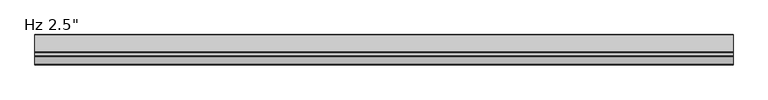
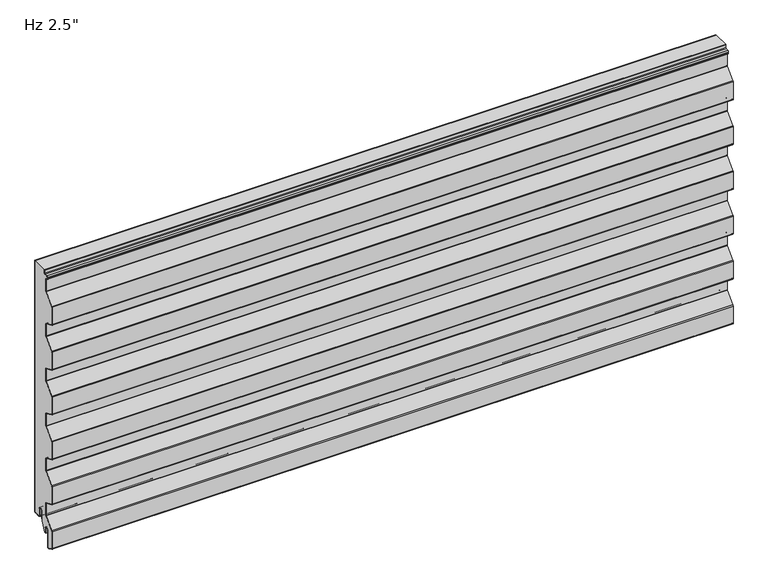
"""IFC4 building model written with IfcOpenShell, lengths in millimetres: plate geometry."""

from ifc_helpers import new_model, si_unit, point, frame, frame_2d, origin, place, context, project, spatial, polyline, circle_curve, trimmed, segment, composite_curve, outline, extrude, source, transform, mapped, element, save


def plate_0d2cc28e(model_context):
    return source(origin(), model_context, "Body", "SweptSolid", [
        extrude(outline(composite_curve([segment(polyline([(-26.4011912, 19.05), (-26.4011912, -3.1976612), (-36.533822, -23.01875), (-38.6886912, -23.01875), (-38.6886912, -11.90625)]), True, "CONTINUOUS"), segment(trimmed(circle_curve(frame_2d((-43.6574412, -11.90625)), 4.96875), [point((-38.6886912, -11.90625))], [point((-48.6261912, -11.90625))], True, "CARTESIAN"), True, "CONTINUOUS"), segment(polyline([(-48.6261912, -11.90625), (-48.6261912, -48.8194049)]), True, "CONTINUOUS"), segment(trimmed(circle_curve(frame_2d((-50.0074412, -48.8194049)), 1.38125), [point((-48.6261912, -48.8194049))], [point((-50.5666208, -50.0824052))], False, "CARTESIAN"), True, "CONTINUOUS"), segment(polyline([(-50.5666208, -50.0824052), (-61.6779296, -45.1629946)]), True, "CONTINUOUS"), segment(trimmed(circle_curve(frame_2d((-61.11875, -43.8999943)), 1.38125), [point((-61.6779296, -45.1629946))], [point((-62.5, -43.8999943))], False, "CARTESIAN"), True, "CONTINUOUS"), segment(polyline([(-62.5, -43.8999943), (-62.5, -5.0536946)]), True, "CONTINUOUS"), segment(trimmed(circle_curve(frame_2d((-60.4012, -5.0536946)), 2.0988), [point((-62.5, -5.0536946))], [point((-61.9092077, -3.5939431))], False, "CARTESIAN"), True, "CONTINUOUS"), segment(polyline([(-61.9092077, -3.5939431), (-41.7145567, 17.2682996)]), True, "CONTINUOUS"), segment(trimmed(circle_curve(frame_2d((-43.5737, 19.0679503)), 2.5875), [point((-41.7145567, 17.2682996))], [point((-40.9862, 19.0679503))], True, "CARTESIAN"), True, "CONTINUOUS"), segment(polyline([(-40.9862, 19.0679503), (-40.9862, 45.5917981)]), True, "CONTINUOUS"), segment(trimmed(circle_curve(frame_2d((-43.5737, 45.5917981)), 2.5875), [point((-40.9862, 45.5917981))], [point((-42.5261871, 47.9577806))], True, "CARTESIAN"), True, "CONTINUOUS"), segment(polyline([(-42.5261871, 47.9577806), (-61.6779296, 56.4370054)]), True, "CONTINUOUS"), segment(trimmed(circle_curve(frame_2d((-61.11875, 57.7000057)), 1.38125), [point((-61.6779296, 56.4370054))], [point((-62.5, 57.7000057))], False, "CARTESIAN"), True, "CONTINUOUS"), segment(polyline([(-62.5, 57.7000057), (-62.5, 96.8367131)]), True, "CONTINUOUS"), segment(trimmed(circle_curve(frame_2d((-61.11875, 96.8367131)), 1.38125), [point((-62.5, 96.8367131))], [point((-62.1111912, 97.7973962))], False, "CARTESIAN"), True, "CONTINUOUS"), segment(polyline([(-62.1111912, 97.7973962), (-41.7145567, 118.8682996)]), True, "CONTINUOUS"), segment(trimmed(circle_curve(frame_2d((-43.5737, 120.6679503)), 2.5875), [point((-41.7145567, 118.8682996))], [point((-40.9862, 120.6679503))], True, "CARTESIAN"), True, "CONTINUOUS"), segment(polyline([(-40.9862, 120.6679503), (-40.9862, 147.1917981)]), True, "CONTINUOUS"), segment(trimmed(circle_curve(frame_2d((-43.5737, 147.1917981)), 2.5875), [point((-40.9862, 147.1917981))], [point((-42.5261871, 149.5577806))], True, "CARTESIAN"), True, "CONTINUOUS"), segment(polyline([(-42.5261871, 149.5577806), (-61.6779296, 158.0370054)]), True, "CONTINUOUS"), segment(trimmed(circle_curve(frame_2d((-61.11875, 159.3000057)), 1.38125), [point((-61.6779296, 158.0370054))], [point((-62.5, 159.3000057))], False, "CARTESIAN"), True, "CONTINUOUS"), segment(polyline([(-62.5, 159.3000057), (-62.5, 198.4367131)]), True, "CONTINUOUS"), segment(trimmed(circle_curve(frame_2d((-61.11875, 198.4367131)), 1.38125), [point((-62.5, 198.4367131))], [point((-62.1111912, 199.3973962))], False, "CARTESIAN"), True, "CONTINUOUS"), segment(polyline([(-62.1111912, 199.3973962), (-41.7145567, 220.4682996)]), True, "CONTINUOUS"), segment(trimmed(circle_curve(frame_2d((-43.5737, 222.2679503)), 2.5875), [point((-41.7145567, 220.4682996))], [point((-40.9862, 222.2679503))], True, "CARTESIAN"), True, "CONTINUOUS"), segment(polyline([(-40.9862, 222.2679503), (-40.9862, 248.7917981)]), True, "CONTINUOUS"), segment(trimmed(circle_curve(frame_2d((-43.5737, 248.7917981)), 2.5875), [point((-40.9862, 248.7917981))], [point((-42.5261871, 251.1577806))], True, "CARTESIAN"), True, "CONTINUOUS"), segment(polyline([(-42.5261871, 251.1577806), (-61.6779296, 259.6370054)]), True, "CONTINUOUS"), segment(trimmed(circle_curve(frame_2d((-61.11875, 260.9000057)), 1.38125), [point((-61.6779296, 259.6370054))], [point((-62.5, 260.9000057))], False, "CARTESIAN"), True, "CONTINUOUS"), segment(polyline([(-62.5, 260.9000057), (-62.5, 300.0367131)]), True, "CONTINUOUS"), segment(trimmed(circle_curve(frame_2d((-61.11875, 300.0367131)), 1.38125), [point((-62.5, 300.0367131))], [point((-62.1111912, 300.9973962))], False, "CARTESIAN"), True, "CONTINUOUS"), segment(polyline([(-62.1111912, 300.9973962), (-41.7145567, 322.0682996)]), True, "CONTINUOUS"), segment(trimmed(circle_curve(frame_2d((-43.5737, 323.8679503)), 2.5875), [point((-41.7145567, 322.0682996))], [point((-40.9862, 323.8679503))], True, "CARTESIAN"), True, "CONTINUOUS"), segment(polyline([(-40.9862, 323.8679503), (-40.9862, 350.3917981)]), True, "CONTINUOUS"), segment(trimmed(circle_curve(frame_2d((-43.5737, 350.3917981)), 2.5875), [point((-40.9862, 350.3917981))], [point((-42.5261871, 352.7577806))], True, "CARTESIAN"), True, "CONTINUOUS"), segment(polyline([(-42.5261871, 352.7577806), (-61.6779296, 361.2370054)]), True, "CONTINUOUS"), segment(trimmed(circle_curve(frame_2d((-61.11875, 362.5000057)), 1.38125), [point((-61.6779296, 361.2370054))], [point((-62.5, 362.5000057))], False, "CARTESIAN"), True, "CONTINUOUS"), segment(polyline([(-62.5, 362.5000057), (-62.5, 401.6367131)]), True, "CONTINUOUS"), segment(trimmed(circle_curve(frame_2d((-61.11875, 401.6367131)), 1.38125), [point((-62.5, 401.6367131))], [point((-62.1111912, 402.5973962))], False, "CARTESIAN"), True, "CONTINUOUS"), segment(polyline([(-62.1111912, 402.5973962), (-41.7145567, 423.6682996)]), True, "CONTINUOUS"), segment(trimmed(circle_curve(frame_2d((-43.5737, 425.4679503)), 2.5875), [point((-41.7145567, 423.6682996))], [point((-40.9862, 425.4679503))], True, "CARTESIAN"), True, "CONTINUOUS"), segment(polyline([(-40.9862, 425.4679503), (-40.9862, 451.9917981)]), True, "CONTINUOUS"), segment(trimmed(circle_curve(frame_2d((-43.5737, 451.9917981)), 2.5875), [point((-40.9862, 451.9917981))], [point((-42.5261871, 454.3577806))], True, "CARTESIAN"), True, "CONTINUOUS"), segment(polyline([(-42.5261871, 454.3577806), (-61.6779296, 462.8370054)]), True, "CONTINUOUS"), segment(trimmed(circle_curve(frame_2d((-61.11875, 464.1000057)), 1.38125), [point((-61.6779296, 462.8370054))], [point((-62.5, 464.1000057))], False, "CARTESIAN"), True, "CONTINUOUS"), segment(polyline([(-62.5, 464.1000057), (-62.5, 503.2367131)]), True, "CONTINUOUS"), segment(trimmed(circle_curve(frame_2d((-61.11875, 503.2367131)), 1.38125), [point((-62.5, 503.2367131))], [point((-62.1111912, 504.1973962))], False, "CARTESIAN"), True, "CONTINUOUS"), segment(polyline([(-62.1111912, 504.1973962), (-41.7145567, 525.2682996)]), True, "CONTINUOUS"), segment(trimmed(circle_curve(frame_2d((-43.5737, 527.0679503)), 2.5875), [point((-41.7145567, 525.2682996))], [point((-40.9862, 527.0679503))], True, "CARTESIAN"), True, "CONTINUOUS"), segment(polyline([(-40.9862, 527.0679503), (-40.9862, 553.5917981)]), True, "CONTINUOUS"), segment(trimmed(circle_curve(frame_2d((-43.5737, 553.5917981)), 2.5875), [point((-40.9862, 553.5917981))], [point((-42.5261871, 555.9577806))], True, "CARTESIAN"), True, "CONTINUOUS"), segment(polyline([(-42.5261871, 555.9577806), (-44.2166208, 556.7062016)]), True, "CONTINUOUS"), segment(trimmed(circle_curve(frame_2d((-43.6574412, 557.9692019)), 1.38125), [point((-44.2166208, 556.7062016))], [point((-45.0386912, 557.9692019))], False, "CARTESIAN"), True, "CONTINUOUS"), segment(polyline([(-45.0386912, 557.9692019), (-45.0386912, 560.2967085)]), True, "CONTINUOUS"), segment(trimmed(circle_curve(frame_2d((-43.6574412, 560.2967085)), 1.38125), [point((-45.0386912, 560.2967085))], [point((-43.7297302, 561.6760655))], False, "CARTESIAN"), True, "CONTINUOUS"), segment(polyline([(-43.7297302, 561.6760655), (-37.9657719, 561.9781418)]), True, "CONTINUOUS"), segment(trimmed(circle_curve(frame_2d((-38.1011912, 564.5620957)), 2.5875), [point((-37.9657719, 561.9781418))], [point((-35.5136912, 564.5620957))], True, "CARTESIAN"), True, "CONTINUOUS"), segment(polyline([(-35.5136912, 564.5620957), (-35.5136912, 571.2), (-1.0011912, 571.2), (-1.0011912, 3.175)]), True, "CONTINUOUS"), segment(trimmed(circle_curve(frame_2d((-2.3824412, 3.175)), 1.38125), [point((-1.0011912, 3.175))], [point((-2.3824412, 1.79375))], False, "CARTESIAN"), True, "CONTINUOUS"), segment(polyline([(-2.3824412, 1.79375), (-15.0824412, 1.79375)]), True, "CONTINUOUS"), segment(trimmed(circle_curve(frame_2d((-15.0824412, 3.175)), 1.38125), [point((-15.0824412, 1.79375))], [point((-16.4636912, 3.175))], False, "CARTESIAN"), True, "CONTINUOUS"), segment(polyline([(-16.4636912, 3.175), (-16.4636912, 19.05)]), True, "CONTINUOUS"), segment(trimmed(circle_curve(frame_2d((-21.4324412, 19.05)), 4.96875), [point((-16.4636912, 19.05))], [point((-26.4011912, 19.05))], True, "CARTESIAN"), True, "CONTINUOUS")], self_intersect=False)), frame((-730.0, 0.0, 0.0), z_axis=(1.0, 0.0, 0.0), x_axis=(0.0, 1.0, 0.0)), (0.0, 0.0, 1.0), 1460.0),
        extrude(outline(composite_curve([segment(polyline([(-25.4, 0.79375), (-26.4, 0.79375), (-26.4, 19.05)]), True, "CONTINUOUS"), segment(trimmed(circle_curve(frame_2d((-21.43125, 19.05)), 4.96875), [point((-26.4, 19.05))], [point((-16.4625, 19.05))], False, "CARTESIAN"), True, "CONTINUOUS"), segment(polyline([(-16.4625, 19.05), (-16.4625, 3.175)]), True, "CONTINUOUS"), segment(trimmed(circle_curve(frame_2d((-15.08125, 3.175)), 1.38125), [point((-16.4625, 3.175))], [point((-15.08125, 1.79375))], True, "CARTESIAN"), True, "CONTINUOUS"), segment(polyline([(-15.08125, 1.79375), (-2.38125, 1.79375)]), True, "CONTINUOUS"), segment(trimmed(circle_curve(frame_2d((-2.38125, 3.175)), 1.38125), [point((-2.38125, 1.79375))], [point((-1.0, 3.175))], True, "CARTESIAN"), True, "CONTINUOUS"), segment(polyline([(-1.0, 3.175), (-1.0, 571.2), (0.0, 571.2), (0.0, 3.175)]), True, "CONTINUOUS"), segment(trimmed(circle_curve(frame_2d((-2.38125, 3.175)), 2.38125), [point((0.0, 3.175))], [point((-2.38125, 0.79375))], False, "CARTESIAN"), True, "CONTINUOUS"), segment(polyline([(-2.38125, 0.79375), (-15.08125, 0.79375)]), True, "CONTINUOUS"), segment(trimmed(circle_curve(frame_2d((-15.08125, 3.175)), 2.38125), [point((-15.08125, 0.79375))], [point((-17.4625, 3.175))], False, "CARTESIAN"), True, "CONTINUOUS"), segment(polyline([(-17.4625, 3.175), (-17.4625, 19.05)]), True, "CONTINUOUS"), segment(trimmed(circle_curve(frame_2d((-21.43125, 19.05)), 3.96875), [point((-17.4625, 19.05))], [point((-25.4, 19.05))], True, "CARTESIAN"), True, "CONTINUOUS"), segment(polyline([(-25.4, 19.05), (-25.4, 0.79375)]), True, "CONTINUOUS")], self_intersect=False)), frame((-730.0, 0.0, 0.0), z_axis=(1.0, 0.0, 0.0), x_axis=(0.0, 1.0, 0.0)), (0.0, 0.0, 1.0), 1460.0),
        extrude(outline(composite_curve([segment(polyline([(-47.6261912, -11.90625), (-47.6261912, -48.8194049)]), True, "CONTINUOUS"), segment(trimmed(circle_curve(frame_2d((-50.0074412, -48.8194049)), 2.38125), [point((-47.6261912, -48.8194049))], [point((-50.9714567, -50.9967946))], False, "CARTESIAN"), True, "CONTINUOUS"), segment(polyline([(-50.9714567, -50.9967946), (-62.0827655, -46.0773839)]), True, "CONTINUOUS"), segment(trimmed(circle_curve(frame_2d((-61.11875, -43.8999943)), 2.38125), [point((-62.0827655, -46.0773839))], [point((-63.5, -43.8999943))], False, "CARTESIAN"), True, "CONTINUOUS"), segment(polyline([(-63.5, -43.8999943), (-63.5, -5.0536946)]), True, "CONTINUOUS"), segment(trimmed(circle_curve(frame_2d((-60.4012, -5.0536946)), 3.0988), [point((-63.5, -5.0536946))], [point((-62.6277172, -2.8984259))], False, "CARTESIAN"), True, "CONTINUOUS"), segment(polyline([(-62.6277172, -2.8984259), (-42.4330662, 17.9638168)]), True, "CONTINUOUS"), segment(trimmed(circle_curve(frame_2d((-43.5737, 19.0679503)), 1.5875), [point((-42.4330662, 17.9638168))], [point((-41.9862, 19.0679503))], True, "CARTESIAN"), True, "CONTINUOUS"), segment(polyline([(-41.9862, 19.0679503), (-41.9862, 45.5917981)]), True, "CONTINUOUS"), segment(trimmed(circle_curve(frame_2d((-43.5737, 45.5917981)), 1.5875), [point((-41.9862, 45.5917981))], [point((-42.931023, 47.0433912))], True, "CARTESIAN"), True, "CONTINUOUS"), segment(polyline([(-42.931023, 47.0433912), (-62.0827655, 55.5226161)]), True, "CONTINUOUS"), segment(trimmed(circle_curve(frame_2d((-61.11875, 57.7000057)), 2.38125), [point((-62.0827655, 55.5226161))], [point((-63.5, 57.7000057))], False, "CARTESIAN"), True, "CONTINUOUS"), segment(polyline([(-63.5, 57.7000057), (-63.5, 96.8367131)]), True, "CONTINUOUS"), segment(trimmed(circle_curve(frame_2d((-61.11875, 96.8367131)), 2.38125), [point((-63.5, 96.8367131))], [point((-62.8297007, 98.4929134))], False, "CARTESIAN"), True, "CONTINUOUS"), segment(polyline([(-62.8297007, 98.4929134), (-42.4330662, 119.5638168)]), True, "CONTINUOUS"), segment(trimmed(circle_curve(frame_2d((-43.5737, 120.6679503)), 1.5875), [point((-42.4330662, 119.5638168))], [point((-41.9862, 120.6679503))], True, "CARTESIAN"), True, "CONTINUOUS"), segment(polyline([(-41.9862, 120.6679503), (-41.9862, 147.1917981)]), True, "CONTINUOUS"), segment(trimmed(circle_curve(frame_2d((-43.5737, 147.1917981)), 1.5875), [point((-41.9862, 147.1917981))], [point((-42.931023, 148.6433912))], True, "CARTESIAN"), True, "CONTINUOUS"), segment(polyline([(-42.931023, 148.6433912), (-62.0827655, 157.1226161)]), True, "CONTINUOUS"), segment(trimmed(circle_curve(frame_2d((-61.11875, 159.3000057)), 2.38125), [point((-62.0827655, 157.1226161))], [point((-63.5, 159.3000057))], False, "CARTESIAN"), True, "CONTINUOUS"), segment(polyline([(-63.5, 159.3000057), (-63.5, 198.4367131)]), True, "CONTINUOUS"), segment(trimmed(circle_curve(frame_2d((-61.11875, 198.4367131)), 2.38125), [point((-63.5, 198.4367131))], [point((-62.8297007, 200.0929134))], False, "CARTESIAN"), True, "CONTINUOUS"), segment(polyline([(-62.8297007, 200.0929134), (-42.4330662, 221.1638168)]), True, "CONTINUOUS"), segment(trimmed(circle_curve(frame_2d((-43.5737, 222.2679503)), 1.5875), [point((-42.4330662, 221.1638168))], [point((-41.9862, 222.2679503))], True, "CARTESIAN"), True, "CONTINUOUS"), segment(polyline([(-41.9862, 222.2679503), (-41.9862, 248.7917981)]), True, "CONTINUOUS"), segment(trimmed(circle_curve(frame_2d((-43.5737, 248.7917981)), 1.5875), [point((-41.9862, 248.7917981))], [point((-42.931023, 250.2433912))], True, "CARTESIAN"), True, "CONTINUOUS"), segment(polyline([(-42.931023, 250.2433912), (-62.0827655, 258.7226161)]), True, "CONTINUOUS"), segment(trimmed(circle_curve(frame_2d((-61.11875, 260.9000057)), 2.38125), [point((-62.0827655, 258.7226161))], [point((-63.5, 260.9000057))], False, "CARTESIAN"), True, "CONTINUOUS"), segment(polyline([(-63.5, 260.9000057), (-63.5, 300.0367131)]), True, "CONTINUOUS"), segment(trimmed(circle_curve(frame_2d((-61.11875, 300.0367131)), 2.38125), [point((-63.5, 300.0367131))], [point((-62.8297007, 301.6929134))], False, "CARTESIAN"), True, "CONTINUOUS"), segment(polyline([(-62.8297007, 301.6929134), (-42.4330662, 322.7638168)]), True, "CONTINUOUS"), segment(trimmed(circle_curve(frame_2d((-43.5737, 323.8679503)), 1.5875), [point((-42.4330662, 322.7638168))], [point((-41.9862, 323.8679503))], True, "CARTESIAN"), True, "CONTINUOUS"), segment(polyline([(-41.9862, 323.8679503), (-41.9862, 350.3917981)]), True, "CONTINUOUS"), segment(trimmed(circle_curve(frame_2d((-43.5737, 350.3917981)), 1.5875), [point((-41.9862, 350.3917981))], [point((-42.931023, 351.8433912))], True, "CARTESIAN"), True, "CONTINUOUS"), segment(polyline([(-42.931023, 351.8433912), (-62.0827655, 360.3226161)]), True, "CONTINUOUS"), segment(trimmed(circle_curve(frame_2d((-61.11875, 362.5000057)), 2.38125), [point((-62.0827655, 360.3226161))], [point((-63.5, 362.5000057))], False, "CARTESIAN"), True, "CONTINUOUS"), segment(polyline([(-63.5, 362.5000057), (-63.5, 401.6367131)]), True, "CONTINUOUS"), segment(trimmed(circle_curve(frame_2d((-61.11875, 401.6367131)), 2.38125), [point((-63.5, 401.6367131))], [point((-62.8297007, 403.2929134))], False, "CARTESIAN"), True, "CONTINUOUS"), segment(polyline([(-62.8297007, 403.2929134), (-42.4330662, 424.3638168)]), True, "CONTINUOUS"), segment(trimmed(circle_curve(frame_2d((-43.5737, 425.4679503)), 1.5875), [point((-42.4330662, 424.3638168))], [point((-41.9862, 425.4679503))], True, "CARTESIAN"), True, "CONTINUOUS"), segment(polyline([(-41.9862, 425.4679503), (-41.9862, 451.9917981)]), True, "CONTINUOUS"), segment(trimmed(circle_curve(frame_2d((-43.5737, 451.9917981)), 1.5875), [point((-41.9862, 451.9917981))], [point((-42.931023, 453.4433912))], True, "CARTESIAN"), True, "CONTINUOUS"), segment(polyline([(-42.931023, 453.4433912), (-62.0827655, 461.9226161)]), True, "CONTINUOUS"), segment(trimmed(circle_curve(frame_2d((-61.11875, 464.1000057)), 2.38125), [point((-62.0827655, 461.9226161))], [point((-63.5, 464.1000057))], False, "CARTESIAN"), True, "CONTINUOUS"), segment(polyline([(-63.5, 464.1000057), (-63.5, 503.2367131)]), True, "CONTINUOUS"), segment(trimmed(circle_curve(frame_2d((-61.11875, 503.2367131)), 2.38125), [point((-63.5, 503.2367131))], [point((-62.8297007, 504.8929134))], False, "CARTESIAN"), True, "CONTINUOUS"), segment(polyline([(-62.8297007, 504.8929134), (-42.4330662, 525.9638168)]), True, "CONTINUOUS"), segment(trimmed(circle_curve(frame_2d((-43.5737, 527.0679503)), 1.5875), [point((-42.4330662, 525.9638168))], [point((-41.9862, 527.0679503))], True, "CARTESIAN"), True, "CONTINUOUS"), segment(polyline([(-41.9862, 527.0679503), (-41.9862, 553.5917981)]), True, "CONTINUOUS"), segment(trimmed(circle_curve(frame_2d((-43.5737, 553.5917981)), 1.5875), [point((-41.9862, 553.5917981))], [point((-42.931023, 555.0433912))], True, "CARTESIAN"), True, "CONTINUOUS"), segment(polyline([(-42.931023, 555.0433912), (-44.6214567, 555.7918123)]), True, "CONTINUOUS"), segment(trimmed(circle_curve(frame_2d((-43.6574412, 557.9692019)), 2.38125), [point((-44.6214567, 555.7918123))], [point((-46.0386912, 557.9692019))], False, "CARTESIAN"), True, "CONTINUOUS"), segment(polyline([(-46.0386912, 557.9692019), (-46.0386912, 560.2967085)]), True, "CONTINUOUS"), segment(trimmed(circle_curve(frame_2d((-43.6574412, 560.2967085)), 2.38125), [point((-46.0386912, 560.2967085))], [point((-43.7820662, 562.6746951))], False, "CARTESIAN"), True, "CONTINUOUS"), segment(polyline([(-43.7820662, 562.6746951), (-38.0181078, 562.9767713)]), True, "CONTINUOUS"), segment(trimmed(circle_curve(frame_2d((-38.1011912, 564.5620957)), 1.5875), [point((-38.0181078, 562.9767713))], [point((-36.5136912, 564.5620957))], True, "CARTESIAN"), True, "CONTINUOUS"), segment(polyline([(-36.5136912, 564.5620957), (-36.5136912, 571.2), (-35.5136912, 571.2), (-35.5136912, 564.5620957)]), True, "CONTINUOUS"), segment(trimmed(circle_curve(frame_2d((-38.1011912, 564.5620957)), 2.5875), [point((-35.5136912, 564.5620957))], [point((-37.9657719, 561.9781418))], False, "CARTESIAN"), True, "CONTINUOUS"), segment(polyline([(-37.9657719, 561.9781418), (-43.7297302, 561.6760655)]), True, "CONTINUOUS"), segment(trimmed(circle_curve(frame_2d((-43.6574412, 560.2967085)), 1.38125), [point((-43.7297302, 561.6760655))], [point((-45.0386912, 560.2967085))], True, "CARTESIAN"), True, "CONTINUOUS"), segment(polyline([(-45.0386912, 560.2967085), (-45.0386912, 557.9692019)]), True, "CONTINUOUS"), segment(trimmed(circle_curve(frame_2d((-43.6574412, 557.9692019)), 1.38125), [point((-45.0386912, 557.9692019))], [point((-44.2166208, 556.7062016))], True, "CARTESIAN"), True, "CONTINUOUS"), segment(polyline([(-44.2166208, 556.7062016), (-42.5261871, 555.9577806)]), True, "CONTINUOUS"), segment(trimmed(circle_curve(frame_2d((-43.5737, 553.5917981)), 2.5875), [point((-42.5261871, 555.9577806))], [point((-40.9862, 553.5917981))], False, "CARTESIAN"), True, "CONTINUOUS"), segment(polyline([(-40.9862, 553.5917981), (-40.9862, 527.0679503)]), True, "CONTINUOUS"), segment(trimmed(circle_curve(frame_2d((-43.5737, 527.0679503)), 2.5875), [point((-40.9862, 527.0679503))], [point((-41.7145567, 525.2682996))], False, "CARTESIAN"), True, "CONTINUOUS"), segment(polyline([(-41.7145567, 525.2682996), (-62.1111912, 504.1973962)]), True, "CONTINUOUS"), segment(trimmed(circle_curve(frame_2d((-61.11875, 503.2367131)), 1.38125), [point((-62.1111912, 504.1973962))], [point((-62.5, 503.2367131))], True, "CARTESIAN"), True, "CONTINUOUS"), segment(polyline([(-62.5, 503.2367131), (-62.5, 464.1000057)]), True, "CONTINUOUS"), segment(trimmed(circle_curve(frame_2d((-61.11875, 464.1000057)), 1.38125), [point((-62.5, 464.1000057))], [point((-61.6779296, 462.8370054))], True, "CARTESIAN"), True, "CONTINUOUS"), segment(polyline([(-61.6779296, 462.8370054), (-42.5261871, 454.3577806)]), True, "CONTINUOUS"), segment(trimmed(circle_curve(frame_2d((-43.5737, 451.9917981)), 2.5875), [point((-42.5261871, 454.3577806))], [point((-40.9862, 451.9917981))], False, "CARTESIAN"), True, "CONTINUOUS"), segment(polyline([(-40.9862, 451.9917981), (-40.9862, 425.4679503)]), True, "CONTINUOUS"), segment(trimmed(circle_curve(frame_2d((-43.5737, 425.4679503)), 2.5875), [point((-40.9862, 425.4679503))], [point((-41.7145567, 423.6682996))], False, "CARTESIAN"), True, "CONTINUOUS"), segment(polyline([(-41.7145567, 423.6682996), (-62.1111912, 402.5973962)]), True, "CONTINUOUS"), segment(trimmed(circle_curve(frame_2d((-61.11875, 401.6367131)), 1.38125), [point((-62.1111912, 402.5973962))], [point((-62.5, 401.6367131))], True, "CARTESIAN"), True, "CONTINUOUS"), segment(polyline([(-62.5, 401.6367131), (-62.5, 362.5000057)]), True, "CONTINUOUS"), segment(trimmed(circle_curve(frame_2d((-61.11875, 362.5000057)), 1.38125), [point((-62.5, 362.5000057))], [point((-61.6779296, 361.2370054))], True, "CARTESIAN"), True, "CONTINUOUS"), segment(polyline([(-61.6779296, 361.2370054), (-42.5261871, 352.7577806)]), True, "CONTINUOUS"), segment(trimmed(circle_curve(frame_2d((-43.5737, 350.3917981)), 2.5875), [point((-42.5261871, 352.7577806))], [point((-40.9862, 350.3917981))], False, "CARTESIAN"), True, "CONTINUOUS"), segment(polyline([(-40.9862, 350.3917981), (-40.9862, 323.8679503)]), True, "CONTINUOUS"), segment(trimmed(circle_curve(frame_2d((-43.5737, 323.8679503)), 2.5875), [point((-40.9862, 323.8679503))], [point((-41.7145567, 322.0682996))], False, "CARTESIAN"), True, "CONTINUOUS"), segment(polyline([(-41.7145567, 322.0682996), (-62.1111912, 300.9973962)]), True, "CONTINUOUS"), segment(trimmed(circle_curve(frame_2d((-61.11875, 300.0367131)), 1.38125), [point((-62.1111912, 300.9973962))], [point((-62.5, 300.0367131))], True, "CARTESIAN"), True, "CONTINUOUS"), segment(polyline([(-62.5, 300.0367131), (-62.5, 260.9000057)]), True, "CONTINUOUS"), segment(trimmed(circle_curve(frame_2d((-61.11875, 260.9000057)), 1.38125), [point((-62.5, 260.9000057))], [point((-61.6779296, 259.6370054))], True, "CARTESIAN"), True, "CONTINUOUS"), segment(polyline([(-61.6779296, 259.6370054), (-42.5261871, 251.1577806)]), True, "CONTINUOUS"), segment(trimmed(circle_curve(frame_2d((-43.5737, 248.7917981)), 2.5875), [point((-42.5261871, 251.1577806))], [point((-40.9862, 248.7917981))], False, "CARTESIAN"), True, "CONTINUOUS"), segment(polyline([(-40.9862, 248.7917981), (-40.9862, 222.2679503)]), True, "CONTINUOUS"), segment(trimmed(circle_curve(frame_2d((-43.5737, 222.2679503)), 2.5875), [point((-40.9862, 222.2679503))], [point((-41.7145567, 220.4682996))], False, "CARTESIAN"), True, "CONTINUOUS"), segment(polyline([(-41.7145567, 220.4682996), (-62.1111912, 199.3973962)]), True, "CONTINUOUS"), segment(trimmed(circle_curve(frame_2d((-61.11875, 198.4367131)), 1.38125), [point((-62.1111912, 199.3973962))], [point((-62.5, 198.4367131))], True, "CARTESIAN"), True, "CONTINUOUS"), segment(polyline([(-62.5, 198.4367131), (-62.5, 159.3000057)]), True, "CONTINUOUS"), segment(trimmed(circle_curve(frame_2d((-61.11875, 159.3000057)), 1.38125), [point((-62.5, 159.3000057))], [point((-61.6779296, 158.0370054))], True, "CARTESIAN"), True, "CONTINUOUS"), segment(polyline([(-61.6779296, 158.0370054), (-42.5261871, 149.5577806)]), True, "CONTINUOUS"), segment(trimmed(circle_curve(frame_2d((-43.5737, 147.1917981)), 2.5875), [point((-42.5261871, 149.5577806))], [point((-40.9862, 147.1917981))], False, "CARTESIAN"), True, "CONTINUOUS"), segment(polyline([(-40.9862, 147.1917981), (-40.9862, 120.6679503)]), True, "CONTINUOUS"), segment(trimmed(circle_curve(frame_2d((-43.5737, 120.6679503)), 2.5875), [point((-40.9862, 120.6679503))], [point((-41.7145567, 118.8682996))], False, "CARTESIAN"), True, "CONTINUOUS"), segment(polyline([(-41.7145567, 118.8682996), (-62.1111912, 97.7973962)]), True, "CONTINUOUS"), segment(trimmed(circle_curve(frame_2d((-61.11875, 96.8367131)), 1.38125), [point((-62.1111912, 97.7973962))], [point((-62.5, 96.8367131))], True, "CARTESIAN"), True, "CONTINUOUS"), segment(polyline([(-62.5, 96.8367131), (-62.5, 57.7000057)]), True, "CONTINUOUS"), segment(trimmed(circle_curve(frame_2d((-61.11875, 57.7000057)), 1.38125), [point((-62.5, 57.7000057))], [point((-61.6779296, 56.4370054))], True, "CARTESIAN"), True, "CONTINUOUS"), segment(polyline([(-61.6779296, 56.4370054), (-42.5261871, 47.9577806)]), True, "CONTINUOUS"), segment(trimmed(circle_curve(frame_2d((-43.5737, 45.5917981)), 2.5875), [point((-42.5261871, 47.9577806))], [point((-40.9862, 45.5917981))], False, "CARTESIAN"), True, "CONTINUOUS"), segment(polyline([(-40.9862, 45.5917981), (-40.9862, 19.0679503)]), True, "CONTINUOUS"), segment(trimmed(circle_curve(frame_2d((-43.5737, 19.0679503)), 2.5875), [point((-40.9862, 19.0679503))], [point((-41.7145567, 17.2682996))], False, "CARTESIAN"), True, "CONTINUOUS"), segment(polyline([(-41.7145567, 17.2682996), (-61.9092077, -3.5939431)]), True, "CONTINUOUS"), segment(trimmed(circle_curve(frame_2d((-60.4012, -5.0536946)), 2.0988), [point((-61.9092077, -3.5939431))], [point((-62.5, -5.0536946))], True, "CARTESIAN"), True, "CONTINUOUS"), segment(polyline([(-62.5, -5.0536946), (-62.5, -43.8999943)]), True, "CONTINUOUS"), segment(trimmed(circle_curve(frame_2d((-61.11875, -43.8999943)), 1.38125), [point((-62.5, -43.8999943))], [point((-61.6779296, -45.1629946))], True, "CARTESIAN"), True, "CONTINUOUS"), segment(polyline([(-61.6779296, -45.1629946), (-50.5666208, -50.0824052)]), True, "CONTINUOUS"), segment(trimmed(circle_curve(frame_2d((-50.0074412, -48.8194049)), 1.38125), [point((-50.5666208, -50.0824052))], [point((-48.6261912, -48.8194049))], True, "CARTESIAN"), True, "CONTINUOUS"), segment(polyline([(-48.6261912, -48.8194049), (-48.6261912, -11.90625)]), True, "CONTINUOUS"), segment(trimmed(circle_curve(frame_2d((-43.6574412, -11.90625)), 4.96875), [point((-48.6261912, -11.90625))], [point((-38.6886912, -11.90625))], False, "CARTESIAN"), True, "CONTINUOUS"), segment(polyline([(-38.6886912, -11.90625), (-38.6886912, -23.01875), (-39.6886912, -23.01875), (-39.6886912, -11.90625)]), True, "CONTINUOUS"), segment(trimmed(circle_curve(frame_2d((-43.6574412, -11.90625)), 3.96875), [point((-39.6886912, -11.90625))], [point((-47.6261912, -11.90625))], True, "CARTESIAN"), True, "CONTINUOUS")], self_intersect=False)), frame((-730.0, 0.0, 0.0), z_axis=(1.0, 0.0, 0.0), x_axis=(0.0, 1.0, 0.0)), (0.0, 0.0, 1.0), 1460.0),
    ])


if __name__ == "__main__":
    model = new_model("IFC4")
    model_context = context("Model", 3, world=origin())
    ifc_project = project(units=[si_unit("LENGTHUNIT", "METRE", prefix="MILLI")], contexts=[model_context])
    site = spatial("IfcSite", under=ifc_project)
    building = spatial("IfcBuilding", under=site)
    placement = place(None, origin())
    plate_shape = plate_0d2cc28e(model_context)
    element("IfcPlate", 1, ObjectType="KIP-24-DWR-R19-CP-Hz-S : Hz 2.5\"", at=placement, inside=building, context=model_context, shape_type="MappedRepresentation", body=[
        mapped(plate_shape, transform((0.0, 0.0, 0.0), x_axis=(1.0, 0.0, 0.0), y_axis=(0.0, 1.0, 0.0), z_axis=(0.0, 0.0, 1.0))),
    ])
    save(model, "model.ifc")
